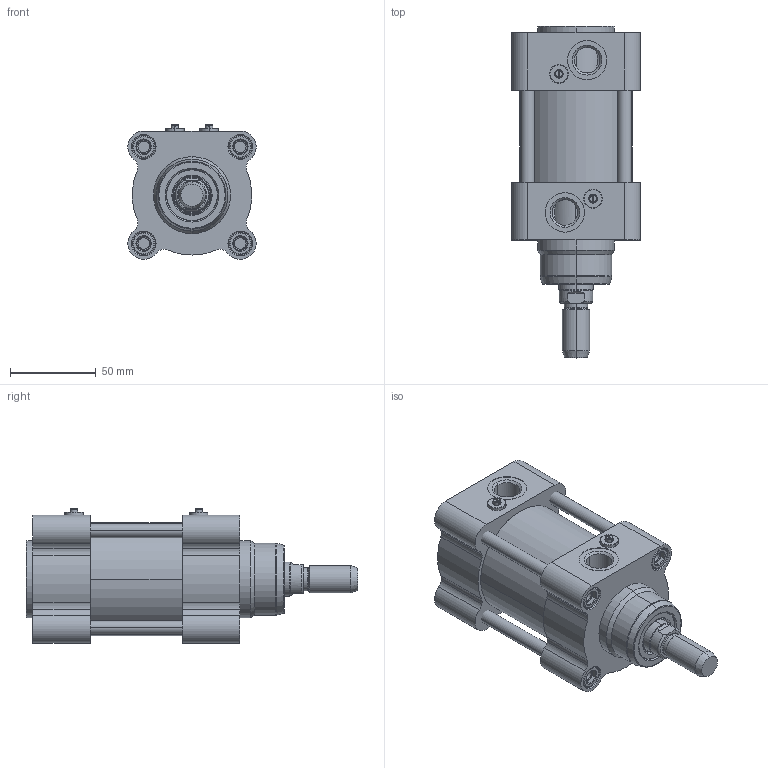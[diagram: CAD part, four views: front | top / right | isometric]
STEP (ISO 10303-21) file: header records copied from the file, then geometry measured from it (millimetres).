
FILE_DESCRIPTION(('STEP AP214'),'1');
FILE_NAME('81M63A0000.stp','2016-07-11T07:20:31',(' '),(' '),'Spatial InterOp 3D',' ',' ');
FILE_SCHEMA(('automotive_design'));
Length unit declared in the file: millimetre
Products named in the file (6): 81M63A0000; CORPO-000; STELO-000; TA; TIRANTE-000; TP
Assembly tree (8 placements, depth 2):
  81M63A0000
    CORPO-000
    STELO-000
    TA
    TIRANTE-000  x4
    TP
Bounding box: 74.94 x 194 x 78.7 mm (x, y, z)
Volume: 420407.4 mm3; surface area: 113141 mm2
Topology: 14 solids, 14 shells, 731 faces, 1644 edges, 996 vertices
Faces by surface type: cone 230, cylinder 210, plane 191, torus 88, revolution 12
Entity records: 26564 total; most frequent: CARTESIAN_POINT 4356, DIRECTION 3800, ORIENTED_EDGE 3204, EDGE_CURVE 1602, AXIS2_PLACEMENT_3D 1578, VERTEX_POINT 972, CIRCLE 858, EDGE_LOOP 776
